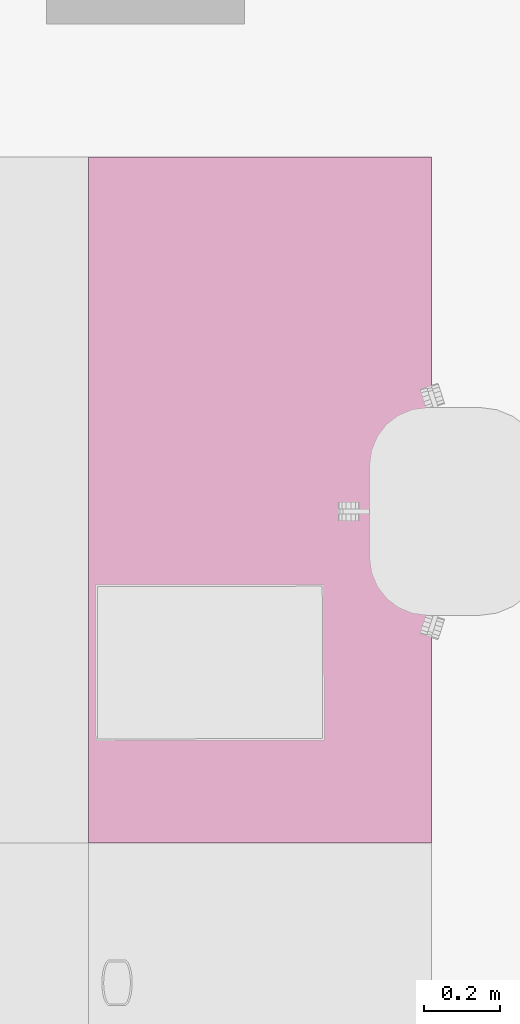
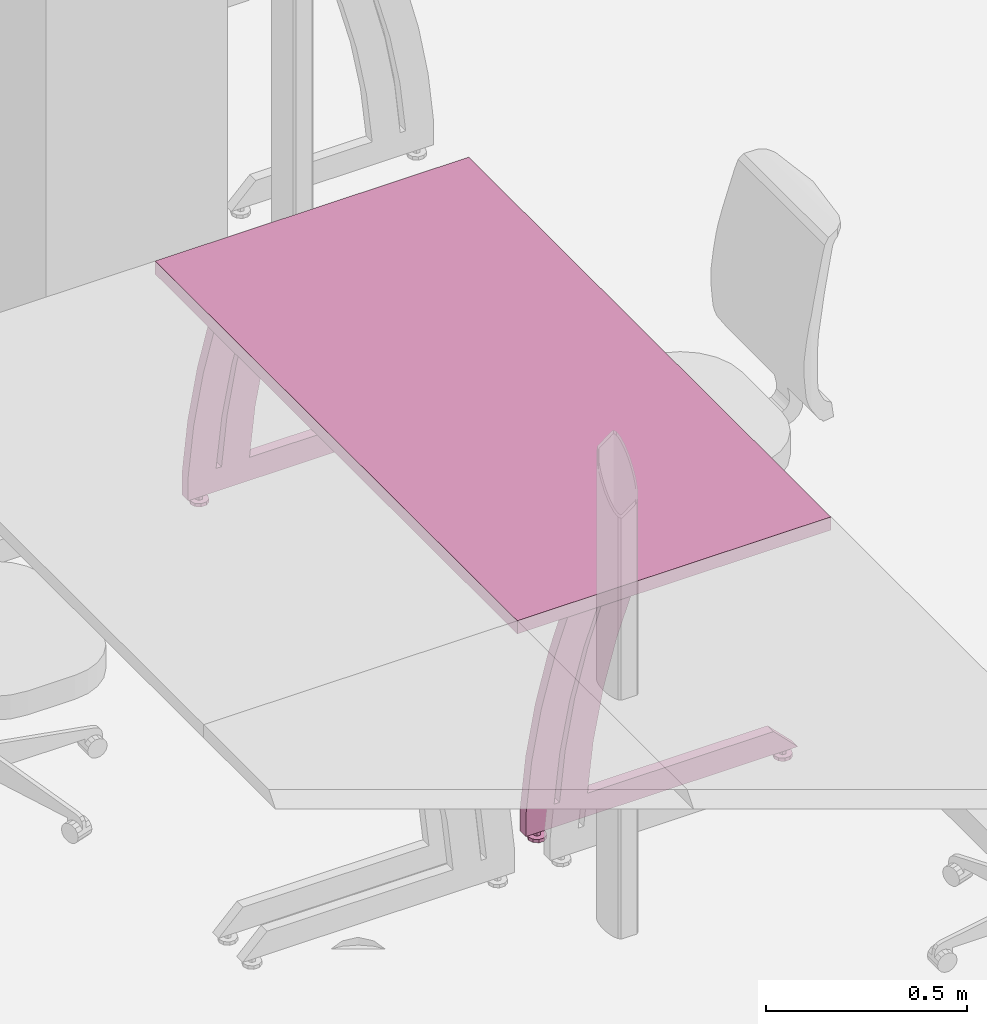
# One storey, part 102 of 128: 1 furnishing.
"""IFC2X3 building model written with IfcOpenShell, lengths in metres."""

import ifcopenshell
import ifcopenshell.guid

model = None  # the IFC model being written
_history = None  # IfcOwnerHistory: only IFC2X3 demands one
_inside = {}  # id of a spatial element -> (the spatial element, [elements in it])
_under = {}  # id of a project, library or spatial element -> (it, [spatial elements below it])
_declared = {}  # id of a project -> (the project, [libraries it declares])
_typed = {}  # id of a type object -> (the type object, [elements of that type])
_made_of = {}  # id of a material, layer set ... -> (it, [elements and type objects made of it])


def new_model(schema):
    """Start an empty IFC model of exactly this schema.

    Asked for "IFC4X3", IfcOpenShell would pick the latest addendum, in which some entities
    have other attributes; the version numbers below select the first issue.
    IFC2X3 requires an IfcOwnerHistory on every rooted entity: one is made here for all.
    """
    global model, _history
    if schema == "IFC4X3":
        model = ifcopenshell.file(schema_version=(4, 3, 0, 0))
    else:
        model = ifcopenshell.file(schema=schema)
    _inside.clear()
    _under.clear()
    _declared.clear()
    _typed.clear()
    _made_of.clear()
    _history = None
    if model.schema == "IFC2X3":
        org = make("IfcOrganization", Name="unknown")
        user = make(
            "IfcPersonAndOrganization",
            ThePerson=make("IfcPerson", FamilyName="unknown"),
            TheOrganization=org,
        )
        app = make(
            "IfcApplication",
            ApplicationDeveloper=org,
            Version="unknown",
            ApplicationFullName="unknown",
            ApplicationIdentifier="unknown",
        )
        _history = make(
            "IfcOwnerHistory",
            OwningUser=user,
            OwningApplication=app,
            ChangeAction="ADDED",
            CreationDate=0,
        )
    return model


def make(cls, **values):
    """One entity of the class cls with the attributes given. An attribute that is None is left unset."""
    return model.create_entity(
        cls, **{name: value for name, value in values.items() if value is not None}
    )


def entity(cls, *values):
    """Any entity or typed value of the class cls, its attributes in the order of the schema. None: left unset."""
    e = model.create_entity(cls)
    for i, value in enumerate(values):
        if value is not None:
            e[i] = value
    return e


def rooted(cls, **values):
    """An entity with a GlobalId (a new one), such as an element, a storey or a relation."""
    return make(cls, GlobalId=ifcopenshell.guid.new(), OwnerHistory=_history, **values)


def si_unit(unit_type, name, prefix=None):
    """IfcSIUnit, for example si_unit("LENGTHUNIT", "METRE", prefix="MILLI")."""
    return make("IfcSIUnit", UnitType=unit_type, Prefix=prefix, Name=name)


def converted_unit(unit_type, name, factor, base, dimensions=None, offset=None):
    """IfcConversionBasedUnit, such as the inch: factor (a typed value) times the base unit."""
    return make(
        "IfcConversionBasedUnit"
        if offset is None
        else "IfcConversionBasedUnitWithOffset",
        ConversionOffset=offset,
        Dimensions=None
        if dimensions is None
        else entity("IfcDimensionalExponents", *dimensions),
        UnitType=unit_type,
        Name=name,
        ConversionFactor=make(
            "IfcMeasureWithUnit", ValueComponent=factor, UnitComponent=base
        ),
    )


def derived_unit(unit_type, elements):
    """IfcDerivedUnit: a product of units, each with its exponent."""
    return make(
        "IfcDerivedUnit",
        Elements=[
            make("IfcDerivedUnitElement", Unit=unit, Exponent=power)
            for unit, power in elements
        ],
        UnitType=unit_type,
    )


def assignment(units):
    """IfcUnitAssignment: the units of a project."""
    return None if units is None else make("IfcUnitAssignment", Units=units)


def point(xyz):
    """IfcCartesianPoint."""
    return None if xyz is None else make("IfcCartesianPoint", Coordinates=xyz)


def direction(xyz):
    """IfcDirection."""
    return None if xyz is None else make("IfcDirection", DirectionRatios=xyz)


def frame(location, z_axis=None, x_axis=None):
    """IfcAxis2Placement3D, a coordinate frame: its origin and axes. An axis left out is left unset."""
    return make(
        "IfcAxis2Placement3D",
        Location=point(location),
        Axis=direction(z_axis),
        RefDirection=direction(x_axis),
    )


def origin():
    """The frame at (0, 0, 0) with its axes left unset."""
    return frame((0.0, 0.0, 0.0))


def place(relative_to, where):
    """IfcLocalPlacement: puts the frame where relative to a parent placement (None: the world)."""
    return make(
        "IfcLocalPlacement", PlacementRelTo=relative_to, RelativePlacement=where
    )


def context(
    kind, dimensions, precision=None, world=None, true_north=None, identifier=None
):
    """IfcGeometricRepresentationContext, for example the 3D "Model" context."""
    return make(
        "IfcGeometricRepresentationContext",
        ContextIdentifier=identifier,
        ContextType=kind,
        CoordinateSpaceDimension=dimensions,
        Precision=precision,
        WorldCoordinateSystem=world,
        TrueNorth=true_north,
    )


def subcontext(parent, identifier, kind, view, scale=None):
    """IfcGeometricRepresentationSubContext, for example "Body" below "Model"."""
    return make(
        "IfcGeometricRepresentationSubContext",
        ContextIdentifier=identifier,
        ContextType=kind,
        ParentContext=parent,
        TargetScale=scale,
        TargetView=view,
    )


def project(units=None, contexts=None):
    """IfcProject with its units and contexts."""
    return rooted(
        "IfcProject",
        Name="project",
        RepresentationContexts=contexts,
        UnitsInContext=assignment(units),
    )


def spatial(cls, under=None, at=None, **own):
    """A site, building, storey or space (cls), placed at a placement, below another one or the project."""
    s = rooted(cls, ObjectPlacement=at, **own)
    if under is not None:
        _under.setdefault(under.id(), (under, []))[1].append(s)
    return s


def faces_of(points, faces, orient=None, outer=None):
    """IfcFace entities. A face is a list of loops; a loop is a list of indices into points, from 0.

    orient and outer hold one flag for each loop. By default every Orientation is true, the
    first loop of a face is its IfcFaceOuterBound and the others are IfcFaceBound.
    """
    made = []
    for i, loops in enumerate(faces):
        bounds = []
        for j, loop in enumerate(loops):
            is_outer = j == 0 if outer is None else outer[i][j]
            bounds.append(
                make(
                    "IfcFaceOuterBound" if is_outer else "IfcFaceBound",
                    Bound=make("IfcPolyLoop", Polygon=[points[k] for k in loop]),
                    Orientation=True if orient is None else orient[i][j],
                )
            )
        made.append(make("IfcFace", Bounds=bounds))
    return made


def faceted_brep(points, faces, orient=None, outer=None, voids=None):
    """IfcFacetedBrep: a solid bounded by flat faces; with voids (closed shells), ...WithVoids."""
    shared = [point(p) for p in points]
    hull = make("IfcClosedShell", CfsFaces=faces_of(shared, faces, orient, outer))
    if voids is None:
        return make("IfcFacetedBrep", Outer=hull)
    return make(
        "IfcFacetedBrepWithVoids",
        Outer=hull,
        Voids=[
            make(cls, CfsFaces=faces_of(shared, fs, o, b)) for cls, fs, o, b in voids
        ],
    )


def shape(context_of_items, identifier, shape_type, items):
    """IfcShapeRepresentation: the items that make up one representation, for example the "Body"."""
    return make(
        "IfcShapeRepresentation",
        ContextOfItems=context_of_items,
        RepresentationIdentifier=identifier,
        RepresentationType=shape_type,
        Items=items,
    )


def source(mapping_origin, context_of_items, identifier, shape_type, items):
    """IfcRepresentationMap: a shape defined once, which mapped items show again and again."""
    return make(
        "IfcRepresentationMap",
        MappingOrigin=mapping_origin,
        MappedRepresentation=shape(context_of_items, identifier, shape_type, items),
    )


def transform(
    local_origin,
    x_axis=None,
    y_axis=None,
    z_axis=None,
    scale=None,
    scale2=None,
    scale3=None,
    uniform=True,
):
    """IfcCartesianTransformationOperator3D, or its non-uniform kind. x_axis, y_axis, z_axis: its Axis1, 2, 3."""
    if uniform:
        return make(
            "IfcCartesianTransformationOperator3D",
            Axis1=direction(x_axis),
            Axis2=direction(y_axis),
            LocalOrigin=point(local_origin),
            Scale=scale,
            Axis3=direction(z_axis),
        )
    return make(
        "IfcCartesianTransformationOperator3DnonUniform",
        Axis1=direction(x_axis),
        Axis2=direction(y_axis),
        LocalOrigin=point(local_origin),
        Scale=scale,
        Axis3=direction(z_axis),
        Scale2=scale2,
        Scale3=scale3,
    )


def mapped(mapping_source, mapping_target):
    """IfcMappedItem: shows the shape of a source again, moved by a transform."""
    return make(
        "IfcMappedItem", MappingSource=mapping_source, MappingTarget=mapping_target
    )


def material(Name=None, Category=None):
    """IfcMaterial."""
    return make("IfcMaterial", Name=Name, Category=Category)


def made_of(thing, what):
    """Note that an element or type object is made of a material, layer set ...; save() writes the relation."""
    if what is not None:
        _made_of.setdefault(what.id(), (what, []))[1].append(thing)
    return thing


def type_object(cls, material=None, **own):
    """A type object (cls), such as IfcWallType, which elements share."""
    return made_of(rooted(cls, **own), material)


def type_shapes(of_type, sources):
    """Give a type object the sources (RepresentationMaps) that its elements show as mapped items."""
    of_type.RepresentationMaps = sources


def element(
    cls,
    number,
    at=None,
    inside=None,
    cuts=None,
    type_object=None,
    material=None,
    context=None,
    identifier="Body",
    shape_type=None,
    held_by="IfcProductDefinitionShape",
    body=None,
    shapes=None,
    **own,
):
    """One element of the class cls, such as IfcWall. Its Tag is "e" and its number.

    at: its placement. inside: the storey or other place that contains it. cuts: it is an
    opening in that element (IfcRelVoidsElement). A single representation is given by context,
    identifier, shape_type and body (its items); several are given by shapes. held_by: the class
    of the entity that holds the representations. save() writes the other relations.
    """
    e = rooted(cls, Tag="e%d" % number, ObjectPlacement=at, **own)
    if body is not None:
        shapes = [shape(context, identifier, shape_type, body)]
    if shapes is not None:
        e.Representation = make(held_by, Representations=shapes)
    if inside is not None:
        _inside.setdefault(inside.id(), (inside, []))[1].append(e)
    if cuts is not None:
        rooted(
            "IfcRelVoidsElement", RelatingBuildingElement=cuts, RelatedOpeningElement=e
        )
    if type_object is not None:
        _typed.setdefault(type_object.id(), (type_object, []))[1].append(e)
    return made_of(e, material)


def aggregate(whole, parts):
    """IfcRelAggregates: a whole, such as a stair, and the parts it consists of."""
    return rooted("IfcRelAggregates", RelatingObject=whole, RelatedObjects=parts)


def save(model, path):
    """Write the relations noted so far, then the file.

    IfcRelAggregates (storeys below a building ...), IfcRelContainedInSpatialStructure (elements
    in a storey), IfcRelDefinesByType, IfcRelAssociatesMaterial and IfcRelDeclares: one each for
    every whole, place, type object, material and project.
    """
    for whole, parts in _under.values():
        aggregate(whole, parts)
    for where, things in _inside.values():
        rooted(
            "IfcRelContainedInSpatialStructure",
            RelatedElements=things,
            RelatingStructure=where,
        )
    for kind, things in _typed.values():
        rooted("IfcRelDefinesByType", RelatedObjects=things, RelatingType=kind)
    for what, things in _made_of.values():
        rooted("IfcRelAssociatesMaterial", RelatedObjects=things, RelatingMaterial=what)
    for by, libraries in _declared.values():
        rooted("IfcRelDeclares", RelatingContext=by, RelatedDefinitions=libraries)
    model.write(path)


model = new_model("IFC2X3")

# Units and contexts
model_context = context("Model", 3, precision=1e-05, world=origin(), true_north=direction((6.123031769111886e-17, 1.0)))
body_context = subcontext(model_context, "Body", "Model", "MODEL_VIEW")
ifc_project = project(units=[si_unit("LENGTHUNIT", "METRE"), si_unit("AREAUNIT", "SQUARE_METRE"), converted_unit("PLANEANGLEUNIT", "DEGREE", entity("IfcPlaneAngleMeasure", 0.017453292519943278), si_unit("PLANEANGLEUNIT", "RADIAN"), dimensions=[0, 0, 0, 0, 0, 0, 0]), derived_unit("THERMALTRANSMITTANCEUNIT", [(si_unit("MASSUNIT", "GRAM", prefix="KILO"), 1), (si_unit("THERMODYNAMICTEMPERATUREUNIT", "KELVIN"), -1), (si_unit("TIMEUNIT", "SECOND"), -3)])], contexts=[model_context])

# Site, building, storey
site_placement = place(None, origin())
site = spatial("IfcSite", under=ifc_project, at=site_placement, Name="Default", CompositionType="ELEMENT")
building_placement = place(site_placement, origin())
building = spatial("IfcBuilding", under=site, at=building_placement, CompositionType="ELEMENT")
storey_placement = place(building_placement, origin())
storey = spatial("IfcBuildingStorey", under=building, at=storey_placement, Name="00_RDC CAF", CompositionType="ELEMENT", Elevation=2.4982504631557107e-13)

# Furnishing
ifc_material = material(Name="ARC - Mo - Blanc")
furniture_type = type_object("IfcFurnitureType", Name="Mo_Bureau:Mo_Bureau_1800x900mm", AssemblyPlace="NOTDEFINED", material=ifc_material)
shared_shape = source(origin(), body_context, "Body", "Brep", [
    faceted_brep([(0.05999999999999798, -0.7962325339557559, 0.0), (0.03622358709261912, -0.7885071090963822, 0.0), (0.0407644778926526, -0.7822571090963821, 0.0), (0.045305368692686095, -0.7760071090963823, 0.0), (0.05265268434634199, -0.7736198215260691, 0.0), (0.05999999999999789, -0.7712325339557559, 0.0), (0.0673473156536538, -0.7736198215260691, 0.0), (0.03622358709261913, -0.7962325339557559, 0.0), (0.03622358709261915, -0.8039579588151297, 0.0), (0.040764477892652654, -0.8102079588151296, 0.0), (0.04530536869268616, -0.8164579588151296, 0.0), (0.052652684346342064, -0.8188452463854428, 0.0), (0.05999999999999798, -0.8212325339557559, 0.0), (0.07469463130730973, -0.7760071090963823, 0.0), (0.07923552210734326, -0.7822571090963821, 0.0), (0.08377641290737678, -0.7885071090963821, 0.0), (0.08377641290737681, -0.7962325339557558, 0.0), (0.06734731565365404, -0.8188452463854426, 0.0), (0.07469463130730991, -0.8164579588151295, 0.0), (0.0792355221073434, -0.8102079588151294, 0.0), (0.08377641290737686, -0.8039579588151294, 0.0), (0.05999999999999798, -0.7962325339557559, 0.024999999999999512), (0.059999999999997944, -0.7862325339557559, 0.024999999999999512), (0.05133974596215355, -0.791232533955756, 0.024999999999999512), (0.05133974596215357, -0.801232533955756, 0.024999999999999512), (0.05999999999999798, -0.8062325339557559, 0.024999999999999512), (0.06866025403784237, -0.7912325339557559, 0.024999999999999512), (0.06866025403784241, -0.8012325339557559, 0.024999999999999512), (0.05133974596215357, -0.801232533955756, 0.01000000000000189), (0.05999999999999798, -0.8062325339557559, 0.01000000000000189), (0.05133974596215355, -0.791232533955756, 0.01000000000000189), (0.05999999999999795, -0.7862325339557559, 0.01000000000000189), (0.06866025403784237, -0.7912325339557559, 0.01000000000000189), (0.06866025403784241, -0.8012325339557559, 0.01000000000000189), (0.0599999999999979, -0.7712325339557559, 0.01000000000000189), (0.05554606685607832, -0.77267970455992, 0.01000000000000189), (0.05109213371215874, -0.774126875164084, 0.01000000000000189), (0.045305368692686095, -0.7760071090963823, 0.01000000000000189), (0.0673473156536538, -0.7736198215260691, 0.01000000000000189), (0.07469463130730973, -0.7760071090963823, 0.01000000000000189), (0.07923552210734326, -0.7822571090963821, 0.01000000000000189), (0.08377641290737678, -0.7885071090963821, 0.01000000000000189), (0.08377641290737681, -0.7962325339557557, 0.01000000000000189), (0.08377641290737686, -0.8039579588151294, 0.01000000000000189), (0.0792355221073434, -0.8102079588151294, 0.01000000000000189), (0.07469463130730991, -0.8164579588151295, 0.01000000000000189), (0.0689078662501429, -0.8183381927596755, 0.01000000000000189), (0.06445393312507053, -0.8197853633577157, 0.01000000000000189), (0.05999999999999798, -0.8212325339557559, 0.01000000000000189), (0.052652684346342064, -0.8188452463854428, 0.01000000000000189), (0.04530536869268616, -0.8164579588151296, 0.01000000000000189), (0.03622358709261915, -0.8039579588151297, 0.01000000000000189), (0.040764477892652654, -0.8102079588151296, 0.01000000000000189), (0.04076447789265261, -0.7822571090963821, 0.01000000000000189), (0.03622358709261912, -0.7885071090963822, 0.01000000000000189), (0.03622358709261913, -0.7962325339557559, 0.01000000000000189)], [[[0, 1, 2]], [[0, 2, 3]], [[0, 3, 4]], [[0, 4, 5]], [[0, 5, 6]], [[0, 7, 1]], [[0, 8, 7]], [[0, 9, 8]], [[0, 10, 9]], [[0, 11, 10]], [[0, 12, 11]], [[0, 6, 13]], [[0, 13, 14]], [[0, 14, 15]], [[0, 15, 16]], [[0, 17, 12]], [[0, 18, 17]], [[0, 19, 18]], [[0, 20, 19]], [[0, 16, 20]], [[21, 22, 23]], [[23, 24, 21]], [[24, 25, 21]], [[21, 26, 22]], [[25, 27, 21]], [[26, 21, 27]], [[25, 24, 28, 29]], [[24, 23, 30, 28]], [[23, 22, 31, 30]], [[22, 26, 32, 31]], [[26, 27, 33, 32]], [[27, 25, 29, 33]], [[31, 34, 35]], [[31, 35, 36]], [[31, 36, 37]], [[31, 37, 30]], [[31, 38, 34]], [[31, 39, 38]], [[32, 39, 31]], [[32, 40, 39]], [[32, 41, 40]], [[32, 42, 41]], [[32, 43, 42]], [[32, 33, 43]], [[33, 44, 43]], [[33, 45, 44]], [[33, 29, 45]], [[29, 46, 45]], [[29, 47, 46]], [[29, 48, 47]], [[29, 49, 48]], [[29, 50, 49]], [[29, 28, 50]], [[30, 51, 28]], [[28, 51, 52]], [[28, 52, 50]], [[30, 37, 53]], [[30, 53, 54]], [[30, 54, 55]], [[30, 55, 51]], [[11, 12, 48, 49, 50, 10]], [[8, 9, 10, 50, 52, 51]], [[7, 8, 51, 55, 54, 1]], [[3, 37, 36, 35, 34, 5, 4]], [[54, 53, 37, 3, 2, 1]], [[6, 5, 34, 38, 39, 13]], [[15, 14, 13, 39, 40, 41]], [[16, 15, 41, 42, 43, 20]], [[18, 45, 46, 47, 48, 12, 17]], [[43, 44, 45, 18, 19, 20]]]),
    faceted_brep([(0.05999999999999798, -0.09132706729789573, 0.0), (0.03622358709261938, -0.0836016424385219, 0.0), (0.04076447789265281, -0.07735164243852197, 0.0), (0.04530536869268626, -0.07110164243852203, 0.0), (0.052652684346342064, -0.06871435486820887, 0.0), (0.05999999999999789, -0.06632706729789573, 0.0), (0.06734731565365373, -0.06871435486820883, 0.0), (0.03622358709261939, -0.0913270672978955, 0.0), (0.0362235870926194, -0.09905249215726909, 0.0), (0.04076447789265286, -0.10530249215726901, 0.0), (0.04530536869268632, -0.11155249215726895, 0.0), (0.05265268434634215, -0.11393977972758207, 0.0), (0.05999999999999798, -0.11632706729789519, 0.0), (0.07469463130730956, -0.07110164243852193, 0.0), (0.07923552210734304, -0.07735164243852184, 0.0), (0.08377641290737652, -0.08360164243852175, 0.0), (0.08377641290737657, -0.09132706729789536, 0.0), (0.06734731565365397, -0.113939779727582, 0.0), (0.07469463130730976, -0.11155249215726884, 0.0), (0.07923552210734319, -0.10530249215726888, 0.0), (0.0837764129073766, -0.09905249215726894, 0.0), (0.05999999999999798, -0.09132706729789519, 0.024999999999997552), (0.059999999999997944, -0.0813270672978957, 0.024999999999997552), (0.051339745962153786, -0.08632706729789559, 0.024999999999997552), (0.05133974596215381, -0.09632706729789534, 0.024999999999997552), (0.05999999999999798, -0.10132706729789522, 0.024999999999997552), (0.06866025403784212, -0.08632706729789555, 0.024999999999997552), (0.06866025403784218, -0.09632706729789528, 0.024999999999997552), (0.05133974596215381, -0.09632706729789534, 0.009999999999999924), (0.05999999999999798, -0.10132706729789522, 0.009999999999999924), (0.051339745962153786, -0.08632706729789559, 0.009999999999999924), (0.05999999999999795, -0.0813270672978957, 0.009999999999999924), (0.06866025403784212, -0.08632706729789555, 0.009999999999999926), (0.06866025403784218, -0.09632706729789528, 0.009999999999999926), (0.05999999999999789, -0.06632706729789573, 0.009999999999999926), (0.055546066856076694, -0.06777423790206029, 0.009999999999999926), (0.051092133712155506, -0.06922140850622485, 0.009999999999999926), (0.04530536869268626, -0.07110164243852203, 0.009999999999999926), (0.06734731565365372, -0.06871435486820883, 0.009999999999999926), (0.07469463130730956, -0.07110164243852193, 0.009999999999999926), (0.07923552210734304, -0.07735164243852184, 0.009999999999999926), (0.08377641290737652, -0.08360164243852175, 0.009999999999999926), (0.08377641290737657, -0.09132706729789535, 0.009999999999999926), (0.0837764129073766, -0.09905249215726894, 0.009999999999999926), (0.07923552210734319, -0.10530249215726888, 0.009999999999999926), (0.07469463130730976, -0.11155249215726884, 0.009999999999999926), (0.06890786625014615, -0.11343272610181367, 0.009999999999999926), (0.06445393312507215, -0.11487989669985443, 0.009999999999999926), (0.05999999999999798, -0.11632706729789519, 0.009999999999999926), (0.05265268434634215, -0.11393977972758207, 0.009999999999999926), (0.04530536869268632, -0.11155249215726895, 0.009999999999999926), (0.0362235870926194, -0.09905249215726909, 0.009999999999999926), (0.04076447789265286, -0.10530249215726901, 0.009999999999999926), (0.04076447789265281, -0.07735164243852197, 0.009999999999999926), (0.03622358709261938, -0.0836016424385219, 0.009999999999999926), (0.03622358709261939, -0.0913270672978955, 0.009999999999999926)], [[[0, 1, 2]], [[0, 2, 3]], [[0, 3, 4]], [[0, 4, 5]], [[0, 5, 6]], [[0, 7, 1]], [[0, 8, 7]], [[0, 9, 8]], [[0, 10, 9]], [[0, 11, 10]], [[0, 12, 11]], [[0, 6, 13]], [[0, 13, 14]], [[0, 14, 15]], [[0, 15, 16]], [[0, 17, 12]], [[0, 18, 17]], [[0, 19, 18]], [[0, 20, 19]], [[0, 16, 20]], [[21, 22, 23]], [[23, 24, 21]], [[24, 25, 21]], [[21, 26, 22]], [[25, 27, 21]], [[26, 21, 27]], [[25, 24, 28, 29]], [[24, 23, 30, 28]], [[23, 22, 31, 30]], [[22, 26, 32, 31]], [[26, 27, 33, 32]], [[27, 25, 29, 33]], [[31, 34, 35]], [[31, 35, 36]], [[31, 36, 37]], [[31, 37, 30]], [[31, 38, 34]], [[31, 39, 38]], [[32, 39, 31]], [[32, 40, 39]], [[32, 41, 40]], [[32, 42, 41]], [[32, 43, 42]], [[32, 33, 43]], [[33, 44, 43]], [[33, 45, 44]], [[33, 29, 45]], [[29, 46, 45]], [[29, 47, 46]], [[29, 48, 47]], [[29, 49, 48]], [[29, 50, 49]], [[29, 28, 50]], [[30, 51, 28]], [[28, 51, 52]], [[28, 52, 50]], [[30, 37, 53]], [[30, 53, 54]], [[30, 54, 55]], [[30, 55, 51]], [[11, 12, 48, 49, 50, 10]], [[8, 9, 10, 50, 52, 51]], [[7, 8, 51, 55, 54, 1]], [[3, 37, 36, 35, 34, 5, 4]], [[54, 53, 37, 3, 2, 1]], [[6, 5, 34, 38, 39, 13]], [[15, 14, 13, 39, 40, 41]], [[16, 15, 41, 42, 43, 20]], [[18, 45, 46, 47, 48, 12, 17]], [[43, 44, 45, 18, 19, 20]]]),
    faceted_brep([(0.04499999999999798, -0.22742160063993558, 0.0950000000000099), (0.04499999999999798, -0.24409269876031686, 0.24614112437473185), (0.04499999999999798, -0.27271442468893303, 0.3954808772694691), (0.04499999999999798, -0.3131059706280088, 0.5420758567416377), (0.04499999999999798, -0.3650121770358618, 0.6849999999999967), (0.04499999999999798, -0.2788721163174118, 0.6849999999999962), (0.04499999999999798, -0.2291924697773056, 0.5416912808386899), (0.04499999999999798, -0.1905543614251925, 0.39501969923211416), (0.04499999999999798, -0.16318154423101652, 0.245834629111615), (0.04499999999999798, -0.14723253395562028, 0.09500000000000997), (0.07499999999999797, -0.3650121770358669, 0.6850000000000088), (0.07499999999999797, -0.3131059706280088, 0.5420758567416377), (0.07499999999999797, -0.27271442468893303, 0.3954808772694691), (0.07499999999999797, -0.24409269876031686, 0.24614112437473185), (0.07499999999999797, -0.22742160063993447, 0.09499999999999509), (0.07499999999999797, -0.14723253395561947, 0.0949999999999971), (0.07499999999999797, -0.16318154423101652, 0.245834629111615), (0.07499999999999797, -0.1905543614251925, 0.39501969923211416), (0.07499999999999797, -0.2291924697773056, 0.5416912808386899), (0.07499999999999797, -0.27887211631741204, 0.6849999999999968)], [[[0, 1, 2, 3, 4, 5, 6, 7, 8, 9]], [[10, 11, 12, 13, 14, 15, 16, 17, 18, 19]], [[10, 19, 5, 4]], [[3, 11, 10, 4]], [[2, 12, 11, 3]], [[0, 14, 13, 1]], [[12, 2, 1, 13]], [[15, 14, 0, 9]], [[8, 7, 17, 16]], [[15, 9, 8, 16]], [[6, 5, 19, 18]], [[6, 18, 17, 7]]]),
    faceted_brep([(0.04499999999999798, -0.13142160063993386, 0.09500000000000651), (0.04499999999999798, -0.14809269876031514, 0.24614112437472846), (0.04499999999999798, -0.1767144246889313, 0.39548087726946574), (0.04499999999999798, -0.21710597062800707, 0.5420758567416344), (0.04499999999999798, -0.26901217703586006, 0.6849999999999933), (0.04499999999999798, -0.18287211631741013, 0.6849999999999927), (0.04499999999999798, -0.13319246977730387, 0.5416912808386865), (0.04499999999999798, -0.09455436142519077, 0.3950196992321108), (0.04499999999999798, -0.0671815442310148, 0.2458346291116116), (0.04499999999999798, -0.05123253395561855, 0.09500000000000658), (0.07499999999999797, -0.2690121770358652, 0.6850000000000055), (0.07499999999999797, -0.21710597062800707, 0.5420758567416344), (0.07499999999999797, -0.1767144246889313, 0.39548087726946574), (0.07499999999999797, -0.14809269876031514, 0.24614112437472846), (0.07499999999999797, -0.1314216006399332, 0.09499999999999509), (0.07499999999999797, -0.05123253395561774, 0.09499999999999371), (0.07499999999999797, -0.0671815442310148, 0.2458346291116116), (0.07499999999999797, -0.09455436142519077, 0.3950196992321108), (0.07499999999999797, -0.13319246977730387, 0.5416912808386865), (0.07499999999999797, -0.18287211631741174, 0.684999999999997)], [[[0, 1, 2, 3, 4, 5, 6, 7, 8, 9]], [[10, 11, 12, 13, 14, 15, 16, 17, 18, 19]], [[10, 19, 5, 4]], [[3, 11, 10, 4]], [[2, 12, 11, 3]], [[0, 14, 13, 1]], [[12, 2, 1, 13]], [[15, 14, 0, 9]], [[8, 7, 17, 16]], [[15, 9, 8, 16]], [[6, 5, 19, 18]], [[6, 18, 17, 7]]]),
    faceted_brep([(0.04499999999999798, -0.0512325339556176, 0.0249999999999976), (0.04499999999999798, -0.8312325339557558, 0.0249999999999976), (0.04499999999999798, -0.7612325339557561, 0.09499999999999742), (0.04499999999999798, -0.05123253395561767, 0.09499999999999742), (0.07499999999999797, -0.0512325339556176, 0.0249999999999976), (0.07499999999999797, -0.05123253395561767, 0.09499999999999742), (0.07499999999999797, -0.7612325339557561, 0.09499999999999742), (0.07499999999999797, -0.8312325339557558, 0.0249999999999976)], [[[0, 1, 2, 3]], [[4, 5, 6, 7]], [[5, 4, 0, 3]], [[6, 5, 3, 2]], [[4, 7, 1, 0]], [[7, 6, 2, 1]]]),
    faceted_brep([(1.7399999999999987, -0.7962325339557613, 0.0), (1.71622358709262, -0.7885071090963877, 0.0), (1.7207644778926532, -0.7822571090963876, 0.0), (1.7253053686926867, -0.7760071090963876, 0.0), (1.7326526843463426, -0.7736198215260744, 0.0), (1.7399999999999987, -0.7712325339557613, 0.0), (1.7473473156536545, -0.7736198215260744, 0.0), (1.71622358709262, -0.7962325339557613, 0.0), (1.71622358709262, -0.803957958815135, 0.0), (1.7207644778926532, -0.8102079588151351, 0.0), (1.725305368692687, -0.816457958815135, 0.0), (1.7326526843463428, -0.8188452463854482, 0.0), (1.7399999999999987, -0.8212325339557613, 0.0), (1.7546946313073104, -0.7760071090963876, 0.0), (1.759235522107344, -0.7822571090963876, 0.0), (1.7637764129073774, -0.7885071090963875, 0.0), (1.7637764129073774, -0.7962325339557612, 0.0), (1.7473473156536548, -0.8188452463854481, 0.0), (1.7546946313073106, -0.8164579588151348, 0.0), (1.759235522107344, -0.8102079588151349, 0.0), (1.7637764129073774, -0.8039579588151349, 0.0), (1.7399999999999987, -0.7962325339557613, 0.024999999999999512), (1.7399999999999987, -0.7862325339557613, 0.024999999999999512), (1.731339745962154, -0.7912325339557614, 0.024999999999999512), (1.731339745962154, -0.8012325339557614, 0.024999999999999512), (1.7399999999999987, -0.8062325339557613, 0.024999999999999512), (1.748660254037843, -0.7912325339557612, 0.024999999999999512), (1.748660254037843, -0.8012325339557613, 0.024999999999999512), (1.731339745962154, -0.8012325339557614, 0.01000000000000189), (1.7399999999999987, -0.8062325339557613, 0.01000000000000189), (1.731339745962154, -0.7912325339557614, 0.01000000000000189), (1.7399999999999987, -0.7862325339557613, 0.01000000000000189), (1.748660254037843, -0.7912325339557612, 0.01000000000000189), (1.748660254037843, -0.8012325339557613, 0.01000000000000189), (1.7399999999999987, -0.7712325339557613, 0.01000000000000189), (1.735546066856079, -0.7726797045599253, 0.01000000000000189), (1.7310921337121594, -0.7741268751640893, 0.01000000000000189), (1.7253053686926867, -0.7760071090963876, 0.01000000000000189), (1.7473473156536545, -0.7736198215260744, 0.01000000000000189), (1.7546946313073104, -0.7760071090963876, 0.01000000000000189), (1.759235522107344, -0.7822571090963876, 0.01000000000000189), (1.7637764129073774, -0.7885071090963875, 0.01000000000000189), (1.7637764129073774, -0.7962325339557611, 0.01000000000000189), (1.7637764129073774, -0.8039579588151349, 0.01000000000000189), (1.759235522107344, -0.8102079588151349, 0.01000000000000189), (1.7546946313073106, -0.8164579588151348, 0.01000000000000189), (1.7489078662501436, -0.8183381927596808, 0.01000000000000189), (1.744453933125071, -0.8197853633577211, 0.01000000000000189), (1.7399999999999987, -0.8212325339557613, 0.01000000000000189), (1.7326526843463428, -0.8188452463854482, 0.01000000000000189), (1.725305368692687, -0.816457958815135, 0.01000000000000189), (1.71622358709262, -0.803957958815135, 0.01000000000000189), (1.7207644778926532, -0.8102079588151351, 0.01000000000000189), (1.7207644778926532, -0.7822571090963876, 0.01000000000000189), (1.71622358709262, -0.7885071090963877, 0.01000000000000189), (1.71622358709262, -0.7962325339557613, 0.01000000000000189)], [[[0, 1, 2]], [[0, 2, 3]], [[0, 3, 4]], [[0, 4, 5]], [[0, 5, 6]], [[0, 7, 1]], [[0, 8, 7]], [[0, 9, 8]], [[0, 10, 9]], [[0, 11, 10]], [[0, 12, 11]], [[0, 6, 13]], [[0, 13, 14]], [[0, 14, 15]], [[0, 15, 16]], [[0, 17, 12]], [[0, 18, 17]], [[0, 19, 18]], [[0, 20, 19]], [[0, 16, 20]], [[21, 22, 23]], [[23, 24, 21]], [[24, 25, 21]], [[21, 26, 22]], [[25, 27, 21]], [[26, 21, 27]], [[25, 24, 28, 29]], [[24, 23, 30, 28]], [[23, 22, 31, 30]], [[22, 26, 32, 31]], [[26, 27, 33, 32]], [[27, 25, 29, 33]], [[31, 34, 35]], [[31, 35, 36]], [[31, 36, 37]], [[31, 37, 30]], [[31, 38, 34]], [[31, 39, 38]], [[32, 39, 31]], [[32, 40, 39]], [[32, 41, 40]], [[32, 42, 41]], [[32, 43, 42]], [[32, 33, 43]], [[33, 44, 43]], [[33, 45, 44]], [[33, 29, 45]], [[29, 46, 45]], [[29, 47, 46]], [[29, 48, 47]], [[29, 49, 48]], [[29, 50, 49]], [[29, 28, 50]], [[30, 51, 28]], [[28, 51, 52]], [[28, 52, 50]], [[30, 37, 53]], [[30, 53, 54]], [[30, 54, 55]], [[30, 55, 51]], [[11, 12, 48, 49, 50, 10]], [[8, 9, 10, 50, 52, 51]], [[7, 8, 51, 55, 54, 1]], [[3, 37, 36, 35, 34, 5, 4]], [[54, 53, 37, 3, 2, 1]], [[6, 5, 34, 38, 39, 13]], [[15, 14, 13, 39, 40, 41]], [[16, 15, 41, 42, 43, 20]], [[18, 45, 46, 47, 48, 12, 17]], [[43, 44, 45, 18, 19, 20]]]),
    faceted_brep([(1.7399999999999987, -0.09132706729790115, 0.0), (1.7162235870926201, -0.08360164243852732, 0.0), (1.7207644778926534, -0.07735164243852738, 0.0), (1.725305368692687, -0.07110164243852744, 0.0), (1.7326526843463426, -0.06871435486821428, 0.0), (1.7399999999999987, -0.06632706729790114, 0.0), (1.7473473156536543, -0.06871435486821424, 0.0), (1.7162235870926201, -0.09132706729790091, 0.0), (1.7162235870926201, -0.0990524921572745, 0.0), (1.7207644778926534, -0.10530249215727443, 0.0), (1.725305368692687, -0.11155249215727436, 0.0), (1.7326526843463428, -0.11393977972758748, 0.0), (1.7399999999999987, -0.1163270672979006, 0.0), (1.7546946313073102, -0.07110164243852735, 0.0), (1.7592355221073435, -0.07735164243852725, 0.0), (1.7637764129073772, -0.08360164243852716, 0.0), (1.7637764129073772, -0.09132706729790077, 0.0), (1.7473473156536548, -0.11393977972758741, 0.0), (1.7546946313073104, -0.11155249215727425, 0.0), (1.7592355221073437, -0.10530249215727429, 0.0), (1.7637764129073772, -0.09905249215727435, 0.0), (1.7399999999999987, -0.0913270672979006, 0.024999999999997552), (1.7399999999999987, -0.08132706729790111, 0.024999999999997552), (1.7313397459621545, -0.08632706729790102, 0.024999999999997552), (1.7313397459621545, -0.09632706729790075, 0.024999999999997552), (1.7399999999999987, -0.10132706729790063, 0.024999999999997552), (1.7486602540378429, -0.08632706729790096, 0.024999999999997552), (1.7486602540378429, -0.0963270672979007, 0.024999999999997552), (1.7313397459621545, -0.09632706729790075, 0.009999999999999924), (1.7399999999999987, -0.10132706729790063, 0.009999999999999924), (1.7313397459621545, -0.08632706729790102, 0.009999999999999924), (1.7399999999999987, -0.08132706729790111, 0.009999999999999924), (1.7486602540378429, -0.08632706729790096, 0.009999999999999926), (1.7486602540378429, -0.0963270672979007, 0.009999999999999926), (1.7399999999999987, -0.06632706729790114, 0.009999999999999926), (1.7355460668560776, -0.0677742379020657, 0.009999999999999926), (1.7310921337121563, -0.06922140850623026, 0.009999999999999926), (1.725305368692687, -0.07110164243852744, 0.009999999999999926), (1.7473473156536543, -0.06871435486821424, 0.009999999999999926), (1.7546946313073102, -0.07110164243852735, 0.009999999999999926), (1.7592355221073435, -0.07735164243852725, 0.009999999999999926), (1.7637764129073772, -0.08360164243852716, 0.009999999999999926), (1.7637764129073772, -0.09132706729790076, 0.009999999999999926), (1.7637764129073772, -0.09905249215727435, 0.009999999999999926), (1.7592355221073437, -0.10530249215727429, 0.009999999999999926), (1.7546946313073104, -0.11155249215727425, 0.009999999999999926), (1.7489078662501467, -0.11343272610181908, 0.009999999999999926), (1.7444539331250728, -0.11487989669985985, 0.009999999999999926), (1.7399999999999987, -0.1163270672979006, 0.009999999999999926), (1.7326526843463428, -0.11393977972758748, 0.009999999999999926), (1.725305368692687, -0.11155249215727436, 0.009999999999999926), (1.7162235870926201, -0.0990524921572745, 0.009999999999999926), (1.7207644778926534, -0.10530249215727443, 0.009999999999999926), (1.7207644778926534, -0.07735164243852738, 0.009999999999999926), (1.7162235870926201, -0.08360164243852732, 0.009999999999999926), (1.7162235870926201, -0.09132706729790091, 0.009999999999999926)], [[[0, 1, 2]], [[0, 2, 3]], [[0, 3, 4]], [[0, 4, 5]], [[0, 5, 6]], [[0, 7, 1]], [[0, 8, 7]], [[0, 9, 8]], [[0, 10, 9]], [[0, 11, 10]], [[0, 12, 11]], [[0, 6, 13]], [[0, 13, 14]], [[0, 14, 15]], [[0, 15, 16]], [[0, 17, 12]], [[0, 18, 17]], [[0, 19, 18]], [[0, 20, 19]], [[0, 16, 20]], [[21, 22, 23]], [[23, 24, 21]], [[24, 25, 21]], [[21, 26, 22]], [[25, 27, 21]], [[26, 21, 27]], [[25, 24, 28, 29]], [[24, 23, 30, 28]], [[23, 22, 31, 30]], [[22, 26, 32, 31]], [[26, 27, 33, 32]], [[27, 25, 29, 33]], [[31, 34, 35]], [[31, 35, 36]], [[31, 36, 37]], [[31, 37, 30]], [[31, 38, 34]], [[31, 39, 38]], [[32, 39, 31]], [[32, 40, 39]], [[32, 41, 40]], [[32, 42, 41]], [[32, 43, 42]], [[32, 33, 43]], [[33, 44, 43]], [[33, 45, 44]], [[33, 29, 45]], [[29, 46, 45]], [[29, 47, 46]], [[29, 48, 47]], [[29, 49, 48]], [[29, 50, 49]], [[29, 28, 50]], [[30, 51, 28]], [[28, 51, 52]], [[28, 52, 50]], [[30, 37, 53]], [[30, 53, 54]], [[30, 54, 55]], [[30, 55, 51]], [[11, 12, 48, 49, 50, 10]], [[8, 9, 10, 50, 52, 51]], [[7, 8, 51, 55, 54, 1]], [[3, 37, 36, 35, 34, 5, 4]], [[54, 53, 37, 3, 2, 1]], [[6, 5, 34, 38, 39, 13]], [[15, 14, 13, 39, 40, 41]], [[16, 15, 41, 42, 43, 20]], [[18, 45, 46, 47, 48, 12, 17]], [[43, 44, 45, 18, 19, 20]]]),
    faceted_brep([(1.7249999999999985, -0.22742160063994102, 0.0950000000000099), (1.7249999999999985, -0.24409269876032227, 0.24614112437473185), (1.7249999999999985, -0.2727144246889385, 0.3954808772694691), (1.7249999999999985, -0.3131059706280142, 0.5420758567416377), (1.7249999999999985, -0.3650121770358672, 0.6849999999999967), (1.7249999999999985, -0.27887211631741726, 0.6849999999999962), (1.7249999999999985, -0.229192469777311, 0.5416912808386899), (1.7249999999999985, -0.1905543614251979, 0.39501969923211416), (1.7249999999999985, -0.16318154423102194, 0.245834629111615), (1.7249999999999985, -0.1472325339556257, 0.09500000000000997), (1.7549999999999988, -0.36501217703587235, 0.6850000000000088), (1.7549999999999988, -0.3131059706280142, 0.5420758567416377), (1.7549999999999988, -0.2727144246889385, 0.3954808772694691), (1.7549999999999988, -0.24409269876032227, 0.24614112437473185), (1.7549999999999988, -0.22742160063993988, 0.09499999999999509), (1.7549999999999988, -0.14723253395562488, 0.0949999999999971), (1.7549999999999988, -0.16318154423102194, 0.245834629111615), (1.7549999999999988, -0.1905543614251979, 0.39501969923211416), (1.7549999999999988, -0.229192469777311, 0.5416912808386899), (1.7549999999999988, -0.2788721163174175, 0.6849999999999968)], [[[0, 1, 2, 3, 4, 5, 6, 7, 8, 9]], [[10, 11, 12, 13, 14, 15, 16, 17, 18, 19]], [[10, 19, 5, 4]], [[3, 11, 10, 4]], [[2, 12, 11, 3]], [[0, 14, 13, 1]], [[12, 2, 1, 13]], [[15, 14, 0, 9]], [[8, 7, 17, 16]], [[15, 9, 8, 16]], [[6, 5, 19, 18]], [[6, 18, 17, 7]]]),
    faceted_brep([(1.7249999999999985, -0.13142160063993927, 0.09500000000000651), (1.7249999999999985, -0.14809269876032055, 0.24614112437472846), (1.7249999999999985, -0.17671442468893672, 0.39548087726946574), (1.7249999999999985, -0.2171059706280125, 0.5420758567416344), (1.7249999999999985, -0.2690121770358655, 0.6849999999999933), (1.7249999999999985, -0.18287211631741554, 0.6849999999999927), (1.7249999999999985, -0.13319246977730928, 0.5416912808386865), (1.7249999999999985, -0.09455436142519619, 0.3950196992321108), (1.7249999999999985, -0.06718154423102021, 0.2458346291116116), (1.7249999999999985, -0.051232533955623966, 0.09500000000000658), (1.7549999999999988, -0.2690121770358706, 0.6850000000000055), (1.7549999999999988, -0.2171059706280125, 0.5420758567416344), (1.7549999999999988, -0.17671442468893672, 0.39548087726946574), (1.7549999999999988, -0.14809269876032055, 0.24614112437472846), (1.7549999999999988, -0.1314216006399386, 0.09499999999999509), (1.7549999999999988, -0.051232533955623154, 0.09499999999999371), (1.7549999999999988, -0.06718154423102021, 0.2458346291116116), (1.7549999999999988, -0.09455436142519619, 0.3950196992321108), (1.7549999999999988, -0.13319246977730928, 0.5416912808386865), (1.7549999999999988, -0.18287211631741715, 0.684999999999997)], [[[0, 1, 2, 3, 4, 5, 6, 7, 8, 9]], [[10, 11, 12, 13, 14, 15, 16, 17, 18, 19]], [[10, 19, 5, 4]], [[3, 11, 10, 4]], [[2, 12, 11, 3]], [[0, 14, 13, 1]], [[12, 2, 1, 13]], [[15, 14, 0, 9]], [[8, 7, 17, 16]], [[15, 9, 8, 16]], [[6, 5, 19, 18]], [[6, 18, 17, 7]]]),
    faceted_brep([(1.7249999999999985, -0.051232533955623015, 0.0249999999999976), (1.7249999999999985, -0.8312325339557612, 0.0249999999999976), (1.7249999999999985, -0.7612325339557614, 0.09499999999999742), (1.7249999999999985, -0.051232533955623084, 0.09499999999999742), (1.7549999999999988, -0.051232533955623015, 0.0249999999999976), (1.7549999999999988, -0.051232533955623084, 0.09499999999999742), (1.7549999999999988, -0.7612325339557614, 0.09499999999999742), (1.7549999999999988, -0.8312325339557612, 0.0249999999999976)], [[[0, 1, 2, 3]], [[4, 5, 6, 7]], [[5, 4, 0, 3]], [[6, 5, 3, 2]], [[4, 7, 1, 0]], [[7, 6, 2, 1]]]),
    faceted_brep([(0.0, -0.8999999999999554, 0.685), (0.0, 0.0, 0.685), (1.7999999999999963, 0.0, 0.6849999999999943), (1.7999999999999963, -0.8999999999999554, 0.6849999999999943), (0.0, -0.8999999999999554, 0.7250000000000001), (1.7999999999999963, -0.8999999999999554, 0.7249999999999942), (1.7999999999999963, 0.0, 0.7249999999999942), (0.0, 0.0, 0.7250000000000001)], [[[0, 1, 2, 3]], [[4, 5, 6, 7]], [[5, 4, 0, 3]], [[6, 5, 3, 2]], [[7, 6, 2, 1]], [[4, 7, 1, 0]]]),
])
type_shapes(furniture_type, [shared_shape])
furnishing_placement = place(storey_placement, frame((36.58029972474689, 134.17278506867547, 0.0), z_axis=(0.0, 0.0, 1.0), x_axis=(0.0, 1.0, 0.0)))
element("IfcFurnishingElement", 1, at=furnishing_placement, inside=storey, type_object=furniture_type, material=ifc_material, Name="Mo_Bureau:Mo_Bureau_1800x900mm", ObjectType="Mo_Bureau:Mo_Bureau_1800x900mm", context=body_context, shape_type="MappedRepresentation", body=[
    mapped(shared_shape, transform((0.0, 0.0, 0.0), scale=1.0)),
])

save(model, "model.ifc")
